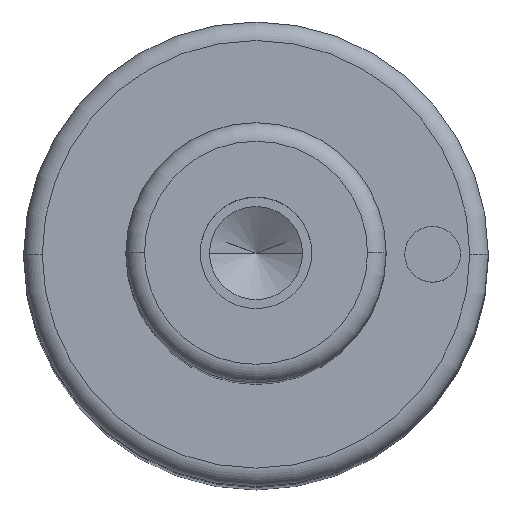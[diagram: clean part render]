
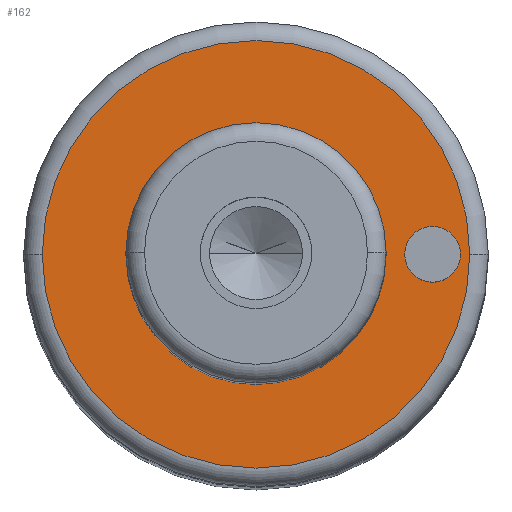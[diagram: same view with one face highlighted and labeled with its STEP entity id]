
A CAD part, top view. The second image highlights one B-rep face of the part: STEP entity #162.
In plain terms, the highlighted planar face has unit normal (0, 0, 1).
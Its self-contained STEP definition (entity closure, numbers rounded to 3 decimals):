
#105=PLANE('',#660);
#113=FACE_BOUND('',#237,.T.);
#114=FACE_BOUND('',#238,.T.);
#115=FACE_BOUND('',#239,.T.);
#162=ADVANCED_FACE('',(#113,#114,#115),#105,.T.);
#237=EDGE_LOOP('',(#393,#394));
#238=EDGE_LOOP('',(#395,#396));
#239=EDGE_LOOP('',(#397,#398));
#269=CIRCLE('',#628,7.);
#270=CIRCLE('',#630,7.);
#274=CIRCLE('',#635,11.5);
#275=CIRCLE('',#637,11.5);
#287=CIRCLE('',#658,1.5);
#288=CIRCLE('',#659,1.5);
#393=ORIENTED_EDGE('',*,*,#512,.F.);
#394=ORIENTED_EDGE('',*,*,#513,.F.);
#395=ORIENTED_EDGE('',*,*,#531,.F.);
#396=ORIENTED_EDGE('',*,*,#532,.F.);
#397=ORIENTED_EDGE('',*,*,#508,.T.);
#398=ORIENTED_EDGE('',*,*,#506,.T.);
#454=VERTEX_POINT('',#925);
#455=VERTEX_POINT('',#927);
#456=VERTEX_POINT('',#933);
#459=VERTEX_POINT('',#938);
#468=VERTEX_POINT('',#977);
#469=VERTEX_POINT('',#978);
#506=EDGE_CURVE('',#455,#454,#269,.T.);
#508=EDGE_CURVE('',#454,#455,#270,.T.);
#512=EDGE_CURVE('',#459,#456,#274,.T.);
#513=EDGE_CURVE('',#456,#459,#275,.T.);
#531=EDGE_CURVE('',#468,#469,#287,.T.);
#532=EDGE_CURVE('',#469,#468,#288,.T.);
#628=AXIS2_PLACEMENT_3D('',#926,#749,#750);
#630=AXIS2_PLACEMENT_3D('',#930,#754,#755);
#635=AXIS2_PLACEMENT_3D('',#939,#764,#765);
#637=AXIS2_PLACEMENT_3D('',#941,#768,#769);
#658=AXIS2_PLACEMENT_3D('',#976,#816,#817);
#659=AXIS2_PLACEMENT_3D('',#979,#818,#819);
#660=AXIS2_PLACEMENT_3D('',#980,#820,#821);
#749=DIRECTION('',(0.,0.,-1.));
#750=DIRECTION('',(0.,1.,0.));
#754=DIRECTION('',(0.,0.,-1.));
#755=DIRECTION('',(0.,-1.,0.));
#764=DIRECTION('',(0.,0.,-1.));
#765=DIRECTION('',(0.,1.,0.));
#768=DIRECTION('',(0.,0.,-1.));
#769=DIRECTION('',(0.,-1.,0.));
#816=DIRECTION('',(0.,0.,1.));
#817=DIRECTION('',(0.,1.,0.));
#818=DIRECTION('',(0.,0.,1.));
#819=DIRECTION('',(0.,-1.,0.));
#820=DIRECTION('',(0.,0.,1.));
#821=DIRECTION('',(0.,-1.,0.));
#925=CARTESIAN_POINT('',(-7.,0.,103.));
#926=CARTESIAN_POINT('',(0.,0.,103.));
#927=CARTESIAN_POINT('',(7.,0.,103.));
#930=CARTESIAN_POINT('',(0.,0.,103.));
#933=CARTESIAN_POINT('',(-11.5,0.,103.));
#938=CARTESIAN_POINT('',(11.5,0.,103.));
#939=CARTESIAN_POINT('',(0.,0.,103.));
#941=CARTESIAN_POINT('',(0.,0.,103.));
#976=CARTESIAN_POINT('',(9.5,0.,103.));
#977=CARTESIAN_POINT('',(8.,0.,103.));
#978=CARTESIAN_POINT('',(11.,0.,103.));
#979=CARTESIAN_POINT('',(9.5,0.,103.));
#980=CARTESIAN_POINT('',(0.,0.,103.));
